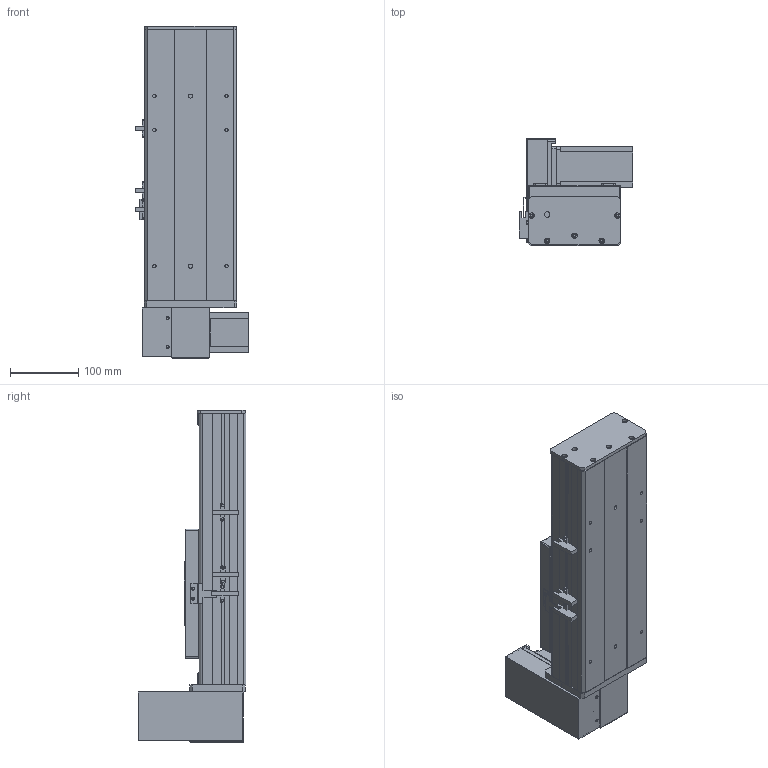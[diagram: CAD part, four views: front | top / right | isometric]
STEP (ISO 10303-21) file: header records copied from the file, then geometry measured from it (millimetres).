
FILE_DESCRIPTION (( 'STEP AP203' ), '1' );
FILE_NAME ('Y135CB-D90-S100-UR-P400W.STEP', '2020-02-18T03:27:43', ( '微软用户' ), ( '微软中国' ), 'SwSTEP 2.0', 'SolidWorks 2017', '' );
FILE_SCHEMA (( 'CONFIG_CONTROL_DESIGN' ));
Length unit declared in the file: millimetre
Products named in the file (18): Y10B-耜蚾蟀諉啣----; 5CB --掛极耜裔啣-; 00B-俋欶BM--; C-詩湍揤踡え-陔; Y135CB-耜裔; Y135CB-D90-S100-UR-P400W; 135CB--詩湍-CE; 135CB---遴掛极.-; Y100-135俋离換覜ん--; 35CB---喘謫眊楊擘啣; Y135C-陔俋离換覜結え-; 0B-埴倛裔啣; 5C--俋欶; 0B-源倛裔啣; C-雄赽釱--; 0B-萇儂楊擘啣; Y10B--々湍喘謫眊--666; san松下电机400不带刹车----
Assembly tree (21 placements, depth 2):
  Y135CB-D90-S100-UR-P400W
    Y135CB-耜裔
    135CB---遴掛极.-
    35CB---喘謫眊楊擘啣
    0B-埴倛裔啣
    0B-源倛裔啣
    0B-萇儂楊擘啣
    san松下电机400不带刹车----
    5CB --掛极耜裔啣-  x2
    C-詩湍揤踡え-陔  x2
    135CB--詩湍-CE
    Y100-135俋离換覜ん--  x3
    Y135C-陔俋离換覜結え-
    5C--俋欶
    C-雄赽釱--
    Y10B--々湍喘謫眊--666
    Y10B-耜蚾蟀諉啣----
    00B-俋欶BM--
Bounding box: 167.5 x 158.7 x 488 mm (x, y, z)
Volume: 2049118.7 mm3; surface area: 778001.8 mm2
Topology: 21 solids, 21 shells, 929 faces, 2455 edges, 1626 vertices
Faces by surface type: cylinder 457, plane 456, cone 16
Entity records: 28541 total; most frequent: DIRECTION 4739, CARTESIAN_POINT 4636, ORIENTED_EDGE 4386, EDGE_CURVE 2193, AXIS2_PLACEMENT_3D 1721, VERTEX_POINT 1454, LINE 1297, VECTOR 1297
